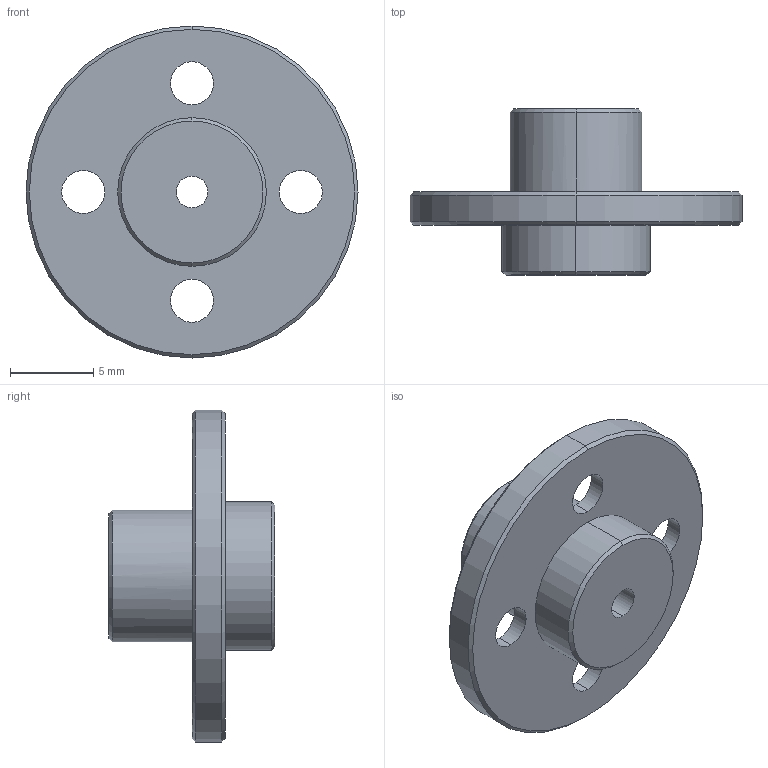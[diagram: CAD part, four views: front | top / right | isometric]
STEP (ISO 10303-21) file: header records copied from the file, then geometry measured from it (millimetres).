
FILE_DESCRIPTION (( 'STEP AP203' ), '1' );
FILE_NAME ('怮栠謫嘐隅釱.STEP', '2025-06-04T09:04:33', ( '' ), ( '' ), 'SwSTEP 2.0', 'SolidWorks 2020', '' );
FILE_SCHEMA (( 'CONFIG_CONTROL_DESIGN' ));
Length unit declared in the file: millimetre
Products named in the file (1): 怮栠謫嘐隅釱
Bounding box: 20 x 10 x 20 mm (x, y, z)
Volume: 908.6 mm3; surface area: 1066.1 mm2
Topology: 1 solids, 1 shells, 87 faces, 222 edges, 140 vertices
Faces by surface type: cylinder 44, plane 23, cone 20
Entity records: 2777 total; most frequent: DIRECTION 502, CARTESIAN_POINT 490, ORIENTED_EDGE 444, EDGE_CURVE 222, AXIS2_PLACEMENT_3D 200, VERTEX_POINT 140, CIRCLE 112, VECTOR 102
